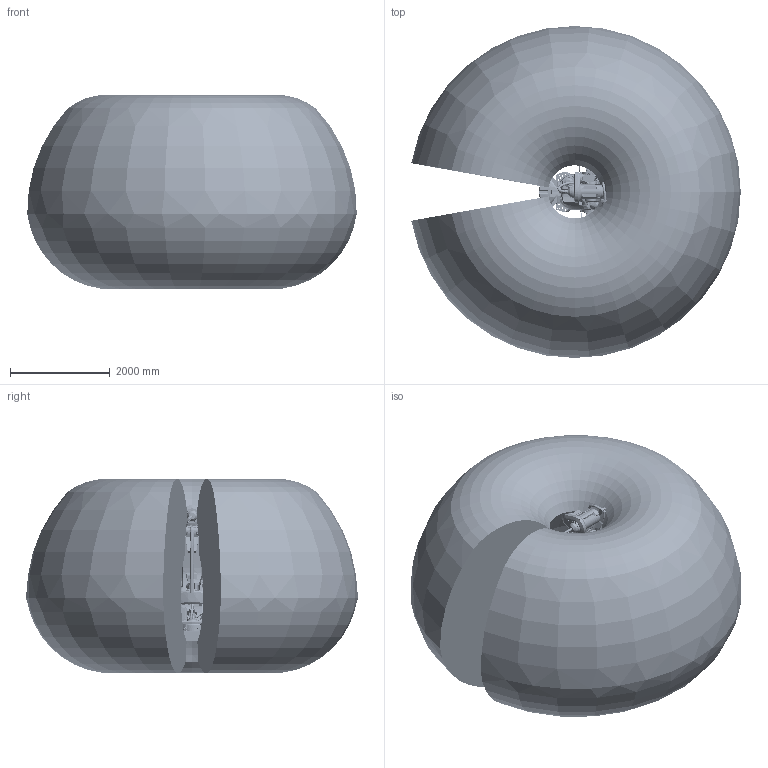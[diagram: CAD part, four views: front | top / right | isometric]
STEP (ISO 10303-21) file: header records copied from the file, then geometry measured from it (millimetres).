
FILE_DESCRIPTION (( 'STEP AP214' ), '1' );
FILE_NAME ('IRB7710-LID-MH_325kg-330_OC_01_ASM_CAD.step', '2026-01-27T14:53:11', ( '' ), ( '' ), 'SwSTEP 2.0', 'SolidWorks 2024', '' );
FILE_SCHEMA (( 'AUTOMOTIVE_DESIGN' ));
Length unit declared in the file: millimetre
Products named in the file (22): IRB77X0_All_OC_00_LINK01_CAD; IRB7710_All_OC_00_LINKARM_CAD; IRB77X0-LID-MH_All_OC_01_LINK03a_CABLE; IRB7710_All_OC_00_BASE_CAD; IRB77X0_All_OC_00_LINK03b_CABLE; IRB77X0_All_OC_00_LINK02_CABLE; IRB77X0_All_OC_00_LINKBAR_CAD; IRB7710-LID-MH_325kg-330_OC_01_ASM_CAD; IRB77X0_All_OC_00_LINK02_CAD; IRB77X0_All_OC_00_LINK01_CABLE; IRB77X0_All_OC_00_LINK01m_CABLE; IRB77X0_All_OC_00_CYL_CAD; IRB77X0_All-330_OC_00_LINK04_CAD; IRB77X0_All-330_OC_00_LINK05_CABLE; IRB77X0_All-330_OC_00_LINK06_CABLE; IRB7710_All_OC_00_LINK03m_CABLE; IRB77X0_All_OC_00_LINK02m_CABLE; IRB77X0_All-330_OC_00_LINK05_CAD; IRB77X0_All_OC_00_ROD_CAD; IRB7710_All_OC_00_LINK03_CAD; IRB77X0-LID_All-330_OC_01_LINK04_CABLE; IRB77X0_All-330_OC_00_Working-space
Assembly tree (21 placements, depth 2):
  IRB7710-LID-MH_325kg-330_OC_01_ASM_CAD
    IRB7710_All_OC_00_BASE_CAD
    IRB77X0_All_OC_00_CYL_CAD
    IRB77X0_All_OC_00_LINK01_CABLE
    IRB77X0_All_OC_00_LINK01_CAD
    IRB77X0_All_OC_00_LINK01m_CABLE
    IRB77X0_All_OC_00_LINK02_CABLE
    IRB77X0_All_OC_00_LINK02_CAD
    IRB77X0_All_OC_00_LINK02m_CABLE
    IRB77X0_All_OC_00_LINK03b_CABLE
    IRB77X0_All_OC_00_LINKBAR_CAD
    IRB77X0_All_OC_00_ROD_CAD
    IRB77X0_All-330_OC_00_LINK04_CAD
    IRB77X0_All-330_OC_00_LINK05_CABLE
    IRB77X0_All-330_OC_00_LINK06_CABLE
    IRB77X0_All-330_OC_00_LINK05_CAD
    IRB77X0-LID-MH_All_OC_01_LINK03a_CABLE
    IRB7710_All_OC_00_LINK03_CAD
    IRB7710_All_OC_00_LINK03m_CABLE
    IRB7710_All_OC_00_LINKARM_CAD
    IRB77X0-LID_All-330_OC_01_LINK04_CABLE
    IRB77X0_All-330_OC_00_Working-space
Bounding box: 6596.2 x 6646.69 x 3895.16 mm (x, y, z)
Volume: 92034966696.8 mm3; surface area: 164350426.1 mm2
Topology: 23 solids, 27 shells, 8758 faces, 22196 edges, 14376 vertices
Faces by surface type: plane 4452, cylinder 1829, cone 1154, bspline 984, torus 260, sphere 79
Full cylindrical faces by diameter (mm): 4.8 x8, 5 x15, 5.2 x4, 5.45 x1, 5.5 x4, 6 x16, 6.6 x4, 6.8 x32, 7 x4, 7.5 x8, 8 x8, 8.3 x2, 8.5 x15, 9.5 x4, 10 x14, 10.2 x24, 10.22 x2, 10.5 x3, 11 x6, 11.05 x2, 11.8 x2, 12 x30, 13 x4, 13.27 x48, 14 x28, 15 x2, 16 x5, 16.27 x18, 17 x8, 17.5 x10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
Entity records: 586861 total; most frequent: CARTESIAN_POINT 299522, ORIENTED_EDGE 40302, DIRECTION 36093, EDGE_CURVE 20151, VERTEX_POINT 13685, AXIS2_PLACEMENT_3D 13565, EDGE_LOOP 11188, FACE_OUTER_BOUND 9656
